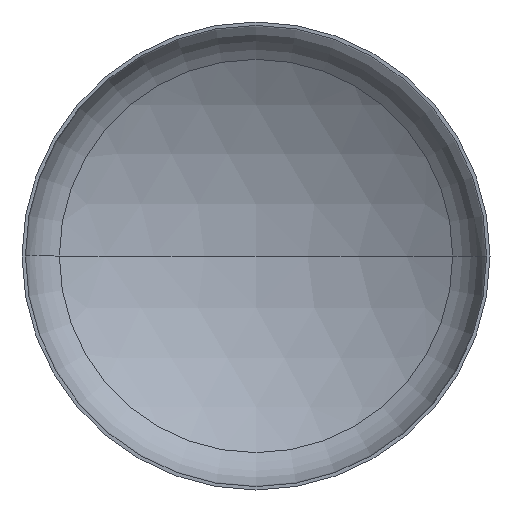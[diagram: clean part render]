
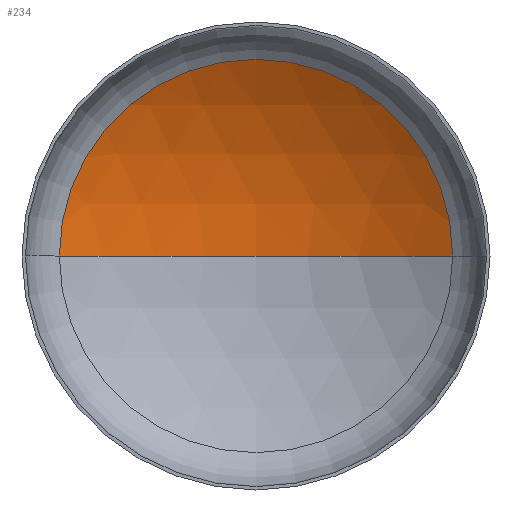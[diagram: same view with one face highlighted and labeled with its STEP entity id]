
A CAD part, front view. The second image highlights one B-rep face of the part: STEP entity #234.
In plain terms, the highlighted spherical face has radius 325 mm.
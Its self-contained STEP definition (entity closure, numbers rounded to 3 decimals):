
#5 = CARTESIAN_POINT ( 'NONE',  ( 0., -203.763, 0. ) ) ;
#11 = ORIENTED_EDGE ( 'NONE', *, *, #157, .T. ) ;
#17 = CARTESIAN_POINT ( 'NONE',  ( 0., -203.763, 0. ) ) ;
#21 = SPHERICAL_SURFACE ( 'NONE', #39, 325. ) ;
#25 = CARTESIAN_POINT ( 'NONE',  ( 170.779, 72.75, 0. ) ) ;
#28 = DIRECTION ( 'NONE',  ( -1., 0., 0. ) ) ;
#31 = DIRECTION ( 'NONE',  ( 0., 0., -1. ) ) ;
#39 = AXIS2_PLACEMENT_3D ( 'NONE', #17, #31, #28 ) ;
#54 = VERTEX_POINT ( 'NONE', #216 ) ;
#59 = AXIS2_PLACEMENT_3D ( 'NONE', #5, #233, #139 ) ;
#62 = AXIS2_PLACEMENT_3D ( 'NONE', #142, #147, #325 ) ;
#69 = ORIENTED_EDGE ( 'NONE', *, *, #161, .T. ) ;
#71 = AXIS2_PLACEMENT_3D ( 'NONE', #184, #176, #167 ) ;
#94 = ORIENTED_EDGE ( 'NONE', *, *, #164, .F. ) ;
#124 = FACE_OUTER_BOUND ( 'NONE', #356, .T. ) ;
#139 = DIRECTION ( 'NONE',  ( 1., 0., 0. ) ) ;
#142 = CARTESIAN_POINT ( 'NONE',  ( 0., -203.763, 0. ) ) ;
#147 = DIRECTION ( 'NONE',  ( 0., 0., -1. ) ) ;
#156 = CIRCLE ( 'NONE', #62, 325. ) ;
#157 = EDGE_CURVE ( 'NONE', #281, #400, #306, .T. ) ;
#161 = EDGE_CURVE ( 'NONE', #54, #281, #156, .T. ) ;
#164 = EDGE_CURVE ( 'NONE', #54, #400, #230, .T. ) ;
#167 = DIRECTION ( 'NONE',  ( 1., 0., 0. ) ) ;
#176 = DIRECTION ( 'NONE',  ( 0., -1., 0. ) ) ;
#184 = CARTESIAN_POINT ( 'NONE',  ( 0., 72.75, 0. ) ) ;
#211 = CARTESIAN_POINT ( 'NONE',  ( -170.779, 72.75, 0. ) ) ;
#216 = CARTESIAN_POINT ( 'NONE',  ( 0., 121.237, 0. ) ) ;
#230 = CIRCLE ( 'NONE', #59, 325. ) ;
#233 = DIRECTION ( 'NONE',  ( 0., 0., 1. ) ) ;
#234 = ADVANCED_FACE ( 'NONE', ( #124 ), #21, .F. ) ;
#281 = VERTEX_POINT ( 'NONE', #25 ) ;
#306 = CIRCLE ( 'NONE', #71, 170.779 ) ;
#325 = DIRECTION ( 'NONE',  ( -1., 0., 0. ) ) ;
#356 = EDGE_LOOP ( 'NONE', ( #94, #69, #11 ) ) ;
#400 = VERTEX_POINT ( 'NONE', #211 ) ;
